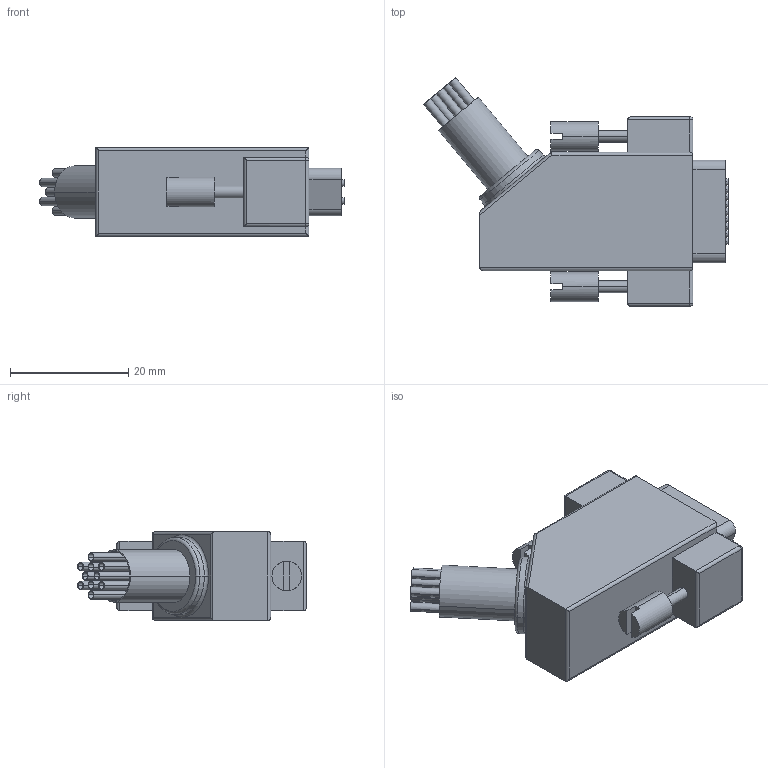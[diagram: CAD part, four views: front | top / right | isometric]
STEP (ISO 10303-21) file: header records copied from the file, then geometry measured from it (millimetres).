
FILE_DESCRIPTION (( 'STEP AP214' ), '1' );
FILE_NAME ('9G-1000.STEP', '2023-07-26T01:11:26', ( 'Windows User' ), ( 'P R C' ), 'SwSTEP 2.0', 'SolidWorks 2019', '' );
FILE_SCHEMA (( 'AUTOMOTIVE_DESIGN' ));
Length unit declared in the file: millimetre
Products named in the file (1): 9G-1000
Bounding box: 51.51 x 38.62 x 15 mm (x, y, z)
Volume: 12221.3 mm3; surface area: 7281.5 mm2
Topology: 4 solids, 4 shells, 222 faces, 478 edges, 302 vertices
Faces by surface type: cylinder 129, plane 83, sphere 6, torus 4
Entity records: 6105 total; most frequent: DIRECTION 1144, CARTESIAN_POINT 1051, ORIENTED_EDGE 944, EDGE_CURVE 472, AXIS2_PLACEMENT_3D 467, VERTEX_POINT 302, EDGE_LOOP 270, CIRCLE 244
